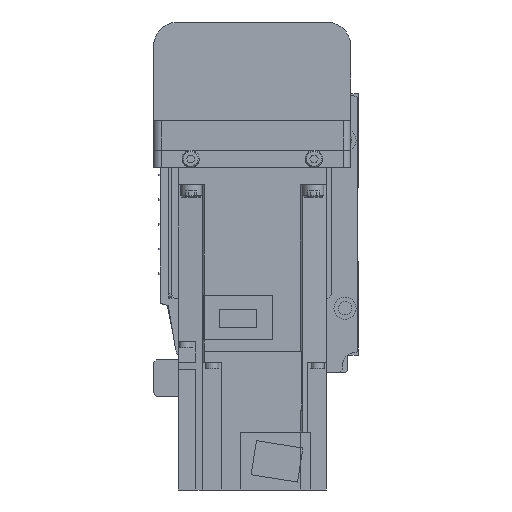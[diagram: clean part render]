
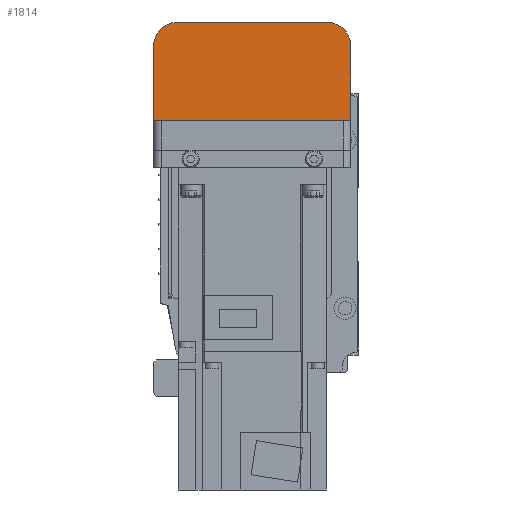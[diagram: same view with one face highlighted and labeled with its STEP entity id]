
A CAD part, left-side view. The second image highlights one B-rep face of the part: STEP entity #1814.
In plain terms, the highlighted planar face has unit normal (-1, 0, 0).
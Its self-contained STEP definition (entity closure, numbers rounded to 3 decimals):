
#1814 = ADVANCED_FACE( '', ( #3928 ), #3929, .F. );
#3928 = FACE_OUTER_BOUND( '', #6368, .T. );
#3929 = PLANE( '', #6369 );
#6368 = EDGE_LOOP( '', ( #11376, #11377, #11378, #11379, #11380, #11381 ) );
#6369 = AXIS2_PLACEMENT_3D( '', #11382, #11383, #11384 );
#11376 = ORIENTED_EDGE( '', *, *, #14298, .F. );
#11377 = ORIENTED_EDGE( '', *, *, #15752, .F. );
#11378 = ORIENTED_EDGE( '', *, *, #15753, .F. );
#11379 = ORIENTED_EDGE( '', *, *, #15131, .F. );
#11380 = ORIENTED_EDGE( '', *, *, #15754, .F. );
#11381 = ORIENTED_EDGE( '', *, *, #15755, .F. );
#11382 = CARTESIAN_POINT( '', ( -192., 37., 7. ) );
#11383 = DIRECTION( '', ( 1., 0., 0. ) );
#11384 = DIRECTION( '', ( 0., 0., -1. ) );
#14298 = EDGE_CURVE( '', #17200, #17202, #17203, .T. );
#15131 = EDGE_CURVE( '', #18518, #18520, #18521, .T. );
#15752 = EDGE_CURVE( '', #19375, #17200, #19376, .T. );
#15753 = EDGE_CURVE( '', #18520, #19375, #19377, .T. );
#15754 = EDGE_CURVE( '', #19378, #18518, #19379, .T. );
#15755 = EDGE_CURVE( '', #17202, #19378, #19380, .T. );
#17200 = VERTEX_POINT( '', #21193 );
#17202 = VERTEX_POINT( '', #21196 );
#17203 = LINE( '', #21197, #21198 );
#18518 = VERTEX_POINT( '', #22984 );
#18520 = VERTEX_POINT( '', #22987 );
#18521 = LINE( '', #22988, #22989 );
#19375 = VERTEX_POINT( '', #24142 );
#19376 = LINE( '', #24143, #24144 );
#19377 = CIRCLE( '', #24145, 10. );
#19378 = VERTEX_POINT( '', #24146 );
#19379 = CIRCLE( '', #24147, 10. );
#19380 = LINE( '', #24148, #24149 );
#21193 = CARTESIAN_POINT( '', ( -192., 40., -12.1 ) );
#21196 = CARTESIAN_POINT( '', ( -192., -40., -12.1 ) );
#21197 = CARTESIAN_POINT( '', ( -192., 50., -12.1 ) );
#21198 = VECTOR( '', #25622, 1000. );
#22984 = CARTESIAN_POINT( '', ( -192., -30., -52. ) );
#22987 = CARTESIAN_POINT( '', ( -192., 30., -52. ) );
#22988 = CARTESIAN_POINT( '', ( -192., -30., -52. ) );
#22989 = VECTOR( '', #26629, 1000. );
#24142 = CARTESIAN_POINT( '', ( -192., 40., -42. ) );
#24143 = CARTESIAN_POINT( '', ( -192., 40., -42. ) );
#24144 = VECTOR( '', #27349, 1000. );
#24145 = AXIS2_PLACEMENT_3D( '', #27350, #27351, #27352 );
#24146 = CARTESIAN_POINT( '', ( -192., -40., -42. ) );
#24147 = AXIS2_PLACEMENT_3D( '', #27353, #27354, #27355 );
#24148 = CARTESIAN_POINT( '', ( -192., -40., -12.1 ) );
#24149 = VECTOR( '', #27356, 1000. );
#25622 = DIRECTION( '', ( 0., -1., 0. ) );
#26629 = DIRECTION( '', ( 0., 1., 0. ) );
#27349 = DIRECTION( '', ( 0., 0., 1. ) );
#27350 = CARTESIAN_POINT( '', ( -192., 30., -42. ) );
#27351 = DIRECTION( '', ( 1., 0., 0. ) );
#27352 = DIRECTION( '', ( 0., 0., -1. ) );
#27353 = CARTESIAN_POINT( '', ( -192., -30., -42. ) );
#27354 = DIRECTION( '', ( 1., 0., 0. ) );
#27355 = DIRECTION( '', ( 0., 0., -1. ) );
#27356 = DIRECTION( '', ( 0., 0., -1. ) );
